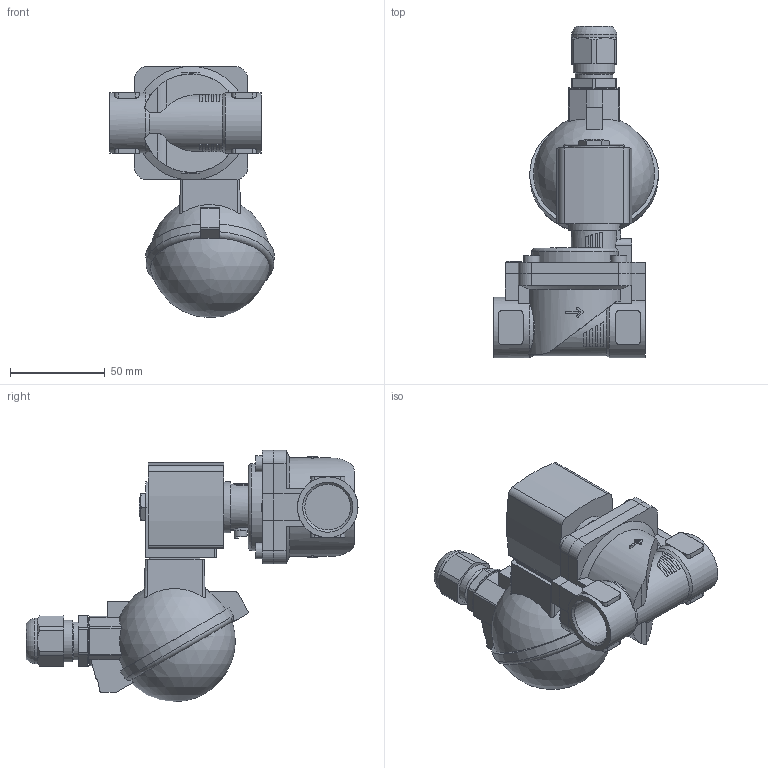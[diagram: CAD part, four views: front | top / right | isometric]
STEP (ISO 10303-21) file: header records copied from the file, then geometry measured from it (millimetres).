
FILE_DESCRIPTION(/* description */ ('STEP AP214'),/* implementation_level */ '2;1');
FILE_NAME(/* name */ '6281-382349-2_2-Way_Solenoid_Valve__Servo-assisted__General_Purpose',/* time_stamp */ '2024-08-20T21:25:16+02:00',/* author */ ('License CC BY-ND 4.0'),/* organization */ ('CADENAS'),/* preprocessor_version */ 'ST-DEVELOPER v19.3',/* originating_system */ 'PARTsolutions',/* authorisation */ ' ');
FILE_SCHEMA (('AUTOMOTIVE_DESIGN {1 0 10303 214 3 1 1}'));
Length unit declared in the file: millimetre
Products named in the file (4): 6281-382349-2/2-Way Solenoid Valve, Servo-assisted, General Purpose; 5281ev201MS2/2-Wege-Magnetventil mit Servomembran-Deckel   ; 6213-20G3/4MS-Gehaeuse-; AC10ex-6ATEXKLK_MB05Plan-Coil
Assembly tree (3 placements, depth 2):
  6281-382349-2/2-Way Solenoid Valve, Servo-assisted, General Purpose
    5281ev201MS2/2-Wege-Magnetventil mit Servomembran-Deckel   
    6213-20G3/4MS-Gehaeuse-
    AC10ex-6ATEXKLK_MB05Plan-Coil
Bounding box: 86.93 x 175.3 x 132.7 mm (x, y, z)
Volume: 392297.5 mm3; surface area: 66608.1 mm2
Topology: 3 solids, 3 shells, 400 faces, 1045 edges, 688 vertices
Faces by surface type: plane 248, cylinder 117, cone 27, torus 4, sphere 4
Full cylindrical faces by diameter (mm): 3.242 x1, 6.8 x1, 8.5 x4, 9.74 x1, 14 x1, 17.294 x1, 20 x1, 22 x1, 23 x1, 24 x1, 24.117 x2, 27 x2, 32 x1
Entity records: 13989 total; most frequent: CARTESIAN_POINT 2430, DIRECTION 2082, ORIENTED_EDGE 2010, EDGE_CURVE 1005, AXIS2_PLACEMENT_3D 762, VERTEX_POINT 674, LINE 558, VECTOR 558
